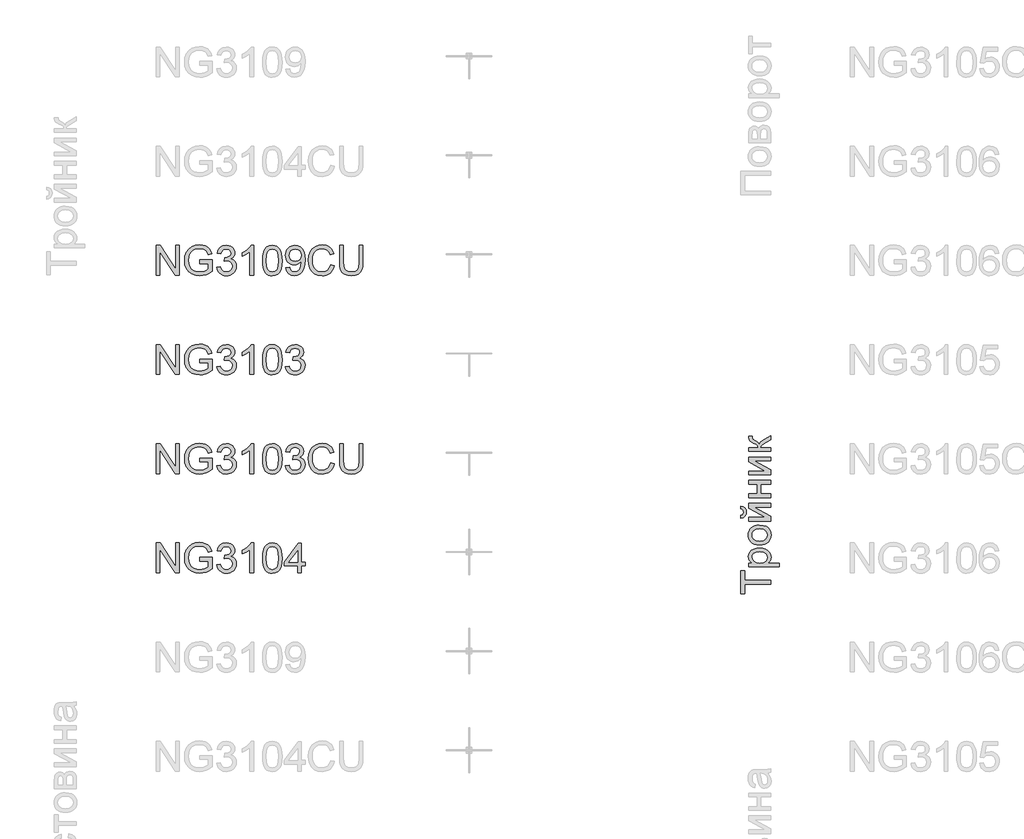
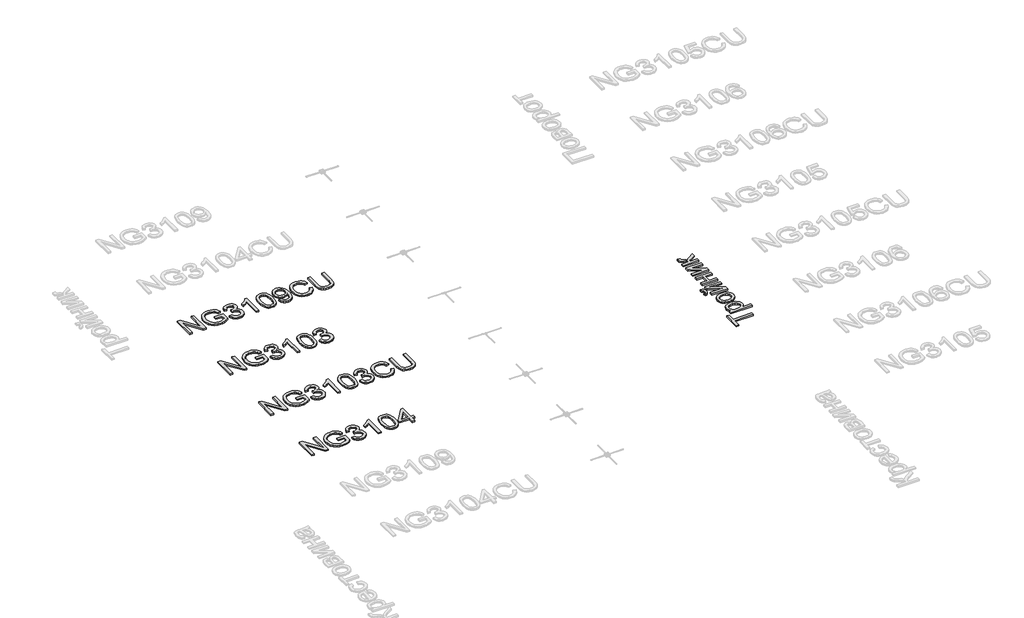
# One storey, part 119 of 124: 5 proxies.
"""IFC4 building model written with IfcOpenShell, lengths in millimetres."""

from ifc_helpers import new_model, si_unit, origin, origin_with_axes, place, context, project, spatial, polyline, outline, extrude, element, save

model = new_model("IFC4")

# Units and contexts
model_context = context("Model", 3, world=origin())
ifc_project = project(units=[si_unit("LENGTHUNIT", "METRE", prefix="MILLI")], contexts=[model_context])

# Site, building, storey
site = spatial("IfcSite", under=ifc_project)
building = spatial("IfcBuilding", under=site)
storey = spatial("IfcBuildingStorey", under=building, Name="Этаж 01", Elevation=0.0)

# Proxies
placement = place(None, origin())
element("IfcBuildingElementProxy", 1, Name="300", ObjectType="300", at=placement, inside=storey, context=model_context, shape_type="SweptSolid", body=[
    extrude(outline(polyline([(55897.1762432, -11633.1081201), (55633.4784291, -11633.1081201), (55633.4784291, -11731.9948004), (55595.8073128, -11731.9948004), (55595.8073128, -11496.5503235), (55633.4784291, -11496.5503235), (55633.4784291, -11595.4370038), (55897.1762432, -11595.4370038), (55897.1762432, -11633.1081201)])), origin_with_axes(), (0.0, 0.0, 1.0), 20.0),
    extrude(outline(polyline([(55981.9362549, -11458.8792072), (55675.8584349, -11458.8792072), (55675.8584349, -11421.2080909), (55712.7937873, -11421.2080909), (55694.5744314, -11408.9208322), (55681.5606059, -11395.1620456), (55673.7523105, -11379.1223906), (55671.1495454, -11359.9925269), (55674.7915772, -11334.5166987), (55685.7176724, -11312.2414439), (55703.2656436, -11294.1048615), (55726.7733031, -11281.0450507), (55754.5299996, -11273.1539819), (55784.8250819, -11270.5236256), (55817.0423476, -11273.4942727), (55845.8567049, -11282.4062141), (55869.8058228, -11296.9743411), (55887.4273704, -11316.9135452), (55898.2706922, -11340.1360962), (55901.8851328, -11364.5542636), (55899.4663087, -11381.8723085), (55892.2098363, -11397.3325494), (55881.2561499, -11410.5671041), (55867.7456836, -11421.2080909), (55981.9362549, -11421.2080909), (55981.9362549, -11458.8792072)]), holes=[polyline([(55788.2831727, -11421.2080909), (55822.0547398, -11417.1337978), (55845.6727639, -11404.9109185), (55859.5787033, -11386.8755037), (55864.2140165, -11365.363604), (55859.4131564, -11343.5022164), (55845.0105763, -11325.0069491), (55820.5280295, -11312.3977937), (55785.4872695, -11308.1947419), (55751.8996433, -11312.2966262), (55727.9505255, -11324.6022789), (55713.6031276, -11342.6101026), (55708.8206617, -11363.8184996), (55713.9066303, -11385.1096701), (55729.164536, -11403.8072725), (55754.1161324, -11416.8578863), (55788.2831727, -11421.2080909)])]), origin_with_axes(), (0.0, 0.0, 1.0), 20.0),
    extrude(outline(polyline([(55786.5173391, -11237.5613989), (55757.8547331, -11235.5242523), (55733.1560557, -11229.4128127), (55712.4213067, -11219.2270799), (55695.6504863, -11204.9670541), (55684.9313246, -11190.6104592), (55677.2747806, -11174.7639423), (55672.6808542, -11157.4275033), (55671.1495454, -11138.6011422), (55673.0142473, -11117.8181087), (55678.6083529, -11099.0262365), (55687.9318622, -11082.2255257), (55700.9847752, -11067.4159761), (55717.3256336, -11055.3287533), (55736.5129789, -11046.6950227), (55758.5468111, -11041.5147844), (55783.4271303, -11039.7880383), (55821.4845227, -11042.8414588), (55850.4552298, -11052.0017205), (55872.1510705, -11067.0021089), (55888.3838636, -11087.5759094), (55898.5098155, -11112.012471), (55901.8851328, -11138.6011422), (55900.0273287, -11159.6876783), (55894.4539165, -11178.6542944), (55885.1648961, -11195.5009905), (55872.1602676, -11210.2277666), (55855.6607601, -11222.1862307), (55835.8871028, -11230.7279908), (55812.8392958, -11235.8530468), (55786.5173391, -11237.5613989)]), holes=[polyline([(55786.4437627, -11199.8902826), (55820.5372266, -11195.5308809), (55844.8266353, -11182.452676), (55859.3671712, -11162.7709892), (55864.2140165, -11138.6011422), (55859.33958, -11114.5416597), (55844.7162707, -11094.8967611), (55820.1049652, -11081.8185562), (55785.2665403, -11077.4591546), (55752.1663578, -11081.8461474), (55728.2080429, -11095.0071257), (55713.667507, -11114.6796154), (55708.8206617, -11138.6011422), (55713.6491129, -11162.7709892), (55728.1344665, -11182.452676), (55752.3686929, -11195.5308809), (55786.4437627, -11199.8902826)])]), origin_with_axes(), (0.0, 0.0, 1.0), 20.0),
    extrude(outline(polyline([(55675.8584349, -10997.4080324), (55675.8584349, -10959.7369161), (55844.6426943, -10959.7369161), (55675.8584349, -10867.1778061), (55675.8584349, -10818.47023), (55897.1762432, -10818.47023), (55897.1762432, -10856.1413463), (55729.4220534, -10856.1413463), (55897.1762432, -10948.1118451), (55897.1762432, -10997.4080324), (55675.8584349, -10997.4080324)])), origin_with_axes(), (0.0, 0.0, 1.0), 20.0),
    extrude(outline(polyline([(55595.8073128, -10874.9769044), (55595.8073128, -10846.7235672), (55619.9311746, -10852.8028172), (55637.709072, -10865.0073023), (55648.6627584, -10882.7851998), (55652.3139872, -10905.5846864), (55648.6903496, -10930.3247506), (55637.8194366, -10949.5097966), (55620.0691304, -10962.6247898), (55595.8073128, -10969.1546952), (55595.8073128, -10940.901358), (55608.2141331, -10936.9282324), (55617.0341039, -10930.3063565), (55622.3040135, -10920.998942), (55624.06065, -10908.9692008), (55622.3591958, -10895.3943552), (55617.2548331, -10885.5719059), (55608.4900446, -10878.95003), (55595.8073128, -10874.9769044)])), origin_with_axes(), (0.0, 0.0, 1.0), 20.0),
    extrude(outline(polyline([(55675.8584349, -10761.9635555), (55675.8584349, -10724.2924392), (55760.6184466, -10724.2924392), (55760.6184466, -10625.4057589), (55675.8584349, -10625.4057589), (55675.8584349, -10587.7346426), (55897.1762432, -10587.7346426), (55897.1762432, -10625.4057589), (55798.2895629, -10625.4057589), (55798.2895629, -10724.2924392), (55897.1762432, -10724.2924392), (55897.1762432, -10761.9635555), (55675.8584349, -10761.9635555)])), origin_with_axes(), (0.0, 0.0, 1.0), 20.0),
    extrude(outline(polyline([(55675.8584349, -10531.2279681), (55675.8584349, -10493.5568518), (55844.6426943, -10493.5568518), (55675.8584349, -10400.9977418), (55675.8584349, -10352.2901657), (55897.1762432, -10352.2901657), (55897.1762432, -10389.961282), (55729.4220534, -10389.961282), (55897.1762432, -10481.9317808), (55897.1762432, -10531.2279681), (55675.8584349, -10531.2279681)])), origin_with_axes(), (0.0, 0.0, 1.0), 20.0),
    extrude(outline(polyline([(55675.8584349, -10295.7834912), (55675.8584349, -10258.1123749), (55770.0362257, -10258.1123749), (55768.3439685, -10242.7900898), (55763.267197, -10232.87567), (55750.0234452, -10224.1016845), (55723.8302471, -10212.2007019), (55689.8011626, -10195.0206127), (55678.7279145, -10179.8638745), (55675.8584349, -10152.3095131), (55675.8584349, -10145.099026), (55713.7502804, -10145.099026), (55713.5295512, -10155.2525691), (55717.5026768, -10173.6466688), (55742.2979233, -10186.596115), (55769.1165207, -10201.7896414), (55782.2499079, -10223.090009), (55787.5520072, -10211.1522382), (55796.9100054, -10199.3248321), (55827.7936989, -10176.0011136), (55897.1762432, -10135.6812469), (55897.1762432, -10178.5027112), (55829.2652269, -10218.0132374), (55800.5336431, -10237.8788652), (55795.3189158, -10247.1678855), (55793.5806734, -10258.1123749), (55897.1762432, -10258.1123749), (55897.1762432, -10295.7834912), (55675.8584349, -10295.7834912)])), origin_with_axes(), (0.0, 0.0, 1.0), 20.0),
])
element("IfcBuildingElementProxy", 2, Name="300", ObjectType="300", at=placement, inside=storey, context=model_context, shape_type="SweptSolid", body=[
    extrude(outline(polyline([(49699.8220677, -8519.5141033), (49699.8220677, -8218.1451728), (49740.1419344, -8218.1451728), (49897.5954283, -8456.9005877), (49897.5954283, -8218.1451728), (49935.2665446, -8218.1451728), (49935.2665446, -8519.5141033), (49894.9466779, -8519.5141033), (49737.493184, -8280.685112), (49737.493184, -8519.5141033), (49699.8220677, -8519.5141033)])), origin_with_axes(), (0.0, 0.0, 1.0), 20.0),
    extrude(outline(polyline([(50142.4576843, -8401.7918648), (50142.4576843, -8364.1207485), (50264.8888123, -8364.1207485), (50264.8888123, -8476.7662154), (50235.1363559, -8497.4595776), (50204.4458005, -8512.3036162), (50172.8907223, -8521.2431486), (50140.5446979, -8524.2229928), (50098.2842537, -8519.4865121), (50060.0889056, -8505.27707), (50028.3590835, -8482.0913073), (50005.4952175, -8450.4258646), (49991.6720515, -8412.4420486), (49987.0643295, -8370.301166), (49991.6536574, -8327.8567808), (50005.4216411, -8288.3738457), (50027.7980634, -8255.2552691), (50058.2127074, -8231.9039594), (50095.2584243, -8218.0532023), (50137.5280656, -8213.4362833), (50168.5589118, -8216.1126248), (50196.4627612, -8224.1416493), (50219.9612236, -8236.9439428), (50237.7759092, -8253.9400909), (50250.9552817, -8275.9486313), (50260.5478047, -8303.7881013), (50225.8197444, -8313.5737624), (50218.0666313, -8293.7173317), (50208.6396552, -8278.7353374), (50196.1684556, -8267.4413602), (50179.282672, -8258.6489805), (50159.1503298, -8252.9927948), (50136.9394544, -8251.1073996), (50110.9393944, -8253.1399476), (50088.7101248, -8259.2375917), (50070.3344191, -8268.6369766), (50055.8950508, -8280.5747474), (50036.5076697, -8309.6006368), (50027.6785018, -8338.037915), (50024.7354458, -8368.7560616), (50028.27631, -8404.780906), (50038.8989026, -8434.4229978), (50056.2813269, -8457.4708048), (50080.1016861, -8473.7127949), (50107.9779443, -8483.3421061), (50137.5280656, -8486.5518765), (50163.6200961, -8484.1330524), (50189.0683331, -8476.87658), (50211.1688439, -8466.8793868), (50227.217696, -8456.2384001), (50227.217696, -8401.7918648), (50142.4576843, -8401.7918648)])), origin_with_axes(), (0.0, 0.0, 1.0), 20.0),
    extrude(outline(polyline([(50311.9777077, -8439.4629811), (50349.648824, -8434.7540916), (50358.0825187, -8458.427298), (50370.4341567, -8474.4117707), (50387.3107432, -8483.51685), (50409.3192836, -8486.5518765), (50435.1445997, -8482.3764158), (50455.0838038, -8469.8500339), (50467.8309149, -8451.1616286), (50472.079952, -8428.5000977), (50467.8677031, -8406.988198), (50455.2309566, -8389.5413944), (50436.1010928, -8377.9807027), (50412.4094924, -8374.1271388), (50385.9955651, -8378.2474171), (50390.1894198, -8340.5763008), (50396.2226846, -8341.0177592), (50418.792245, -8338.3138265), (50438.9705724, -8330.2020285), (50453.2076056, -8316.4800301), (50457.9532834, -8296.9454962), (50454.5135867, -8280.6759149), (50444.1944967, -8267.4781484), (50428.4491473, -8258.7317539), (50408.7306724, -8255.8162891), (50388.9754093, -8258.7593451), (50372.8253897, -8267.588513), (50361.0347717, -8282.3037928), (50354.3577135, -8302.9051845), (50316.6865972, -8298.196295), (50327.7782394, -8264.3695455), (50347.5151084, -8239.1144465), (50374.5176468, -8223.3874912), (50407.4062972, -8218.1451728), (50431.0887007, -8220.7295438), (50452.8397236, -8228.4826569), (50471.1786411, -8240.7147332), (50484.624728, -8256.7359941), (50492.8744817, -8275.1944732), (50495.6243997, -8294.7382042), (50493.0124375, -8312.948363), (50485.176551, -8329.4662646), (50472.2271048, -8343.5377509), (50454.2744634, -8354.4086638), (50477.8556993, -8363.9368075), (50495.3300941, -8380.1604035), (50506.1458247, -8402.196535), (50509.7510683, -8429.1622852), (50507.9484465, -8448.2737549), (50502.5405812, -8465.8769084), (50493.5274723, -8481.9717457), (50480.9091199, -8496.5582668), (50465.536251, -8508.6615844), (50448.2595928, -8517.3068113), (50429.0791453, -8522.4939474), (50407.9949084, -8524.2229928), (50388.9386211, -8522.7468663), (50371.5745909, -8518.3184868), (50355.9028179, -8510.9378542), (50341.9233021, -8500.6049687), (50330.201662, -8487.9268354), (50321.3035162, -8473.5104598), (50315.2288648, -8457.3558417), (50311.9777077, -8439.4629811)])), origin_with_axes(), (0.0, 0.0, 1.0), 20.0),
    extrude(outline(polyline([(50683.9799812, -8519.5141033), (50646.3088649, -8519.5141033), (50646.3088649, -8284.6582375), (50610.6243114, -8310.0788834), (50570.9666323, -8329.0983826), (50570.9666323, -8293.4874054), (50600.5535417, -8277.3925681), (50626.1857197, -8258.2443103), (50646.3916383, -8237.8820419), (50659.6997695, -8218.1451728), (50683.9799812, -8218.1451728), (50683.9799812, -8519.5141033)])), origin_with_axes(), (0.0, 0.0, 1.0), 20.0),
    extrude(outline(polyline([(50773.4488824, -8371.2576592), (50776.2171944, -8323.0191326), (50784.5221305, -8284.5478729), (50798.2809171, -8255.2552691), (50817.4107808, -8234.5527098), (50842.0496775, -8222.2470571), (50872.3355627, -8218.1451728), (50895.5489166, -8220.573194), (50916.3342493, -8227.8572575), (50933.7166736, -8239.7122548), (50946.7213021, -8255.8530773), (50956.5437514, -8276.1417694), (50964.3796379, -8300.4403751), (50969.5115917, -8331.2964775), (50971.222243, -8371.2576592), (50968.4815222, -8419.2202743), (50960.2593596, -8457.5995635), (50946.5833464, -8486.9197585), (50927.4810738, -8507.7050912), (50902.7869949, -8520.0935174), (50872.3355627, -8524.2229928), (50851.5870182, -8522.4295681), (50833.1929184, -8517.0492939), (50817.1532634, -8508.0821703), (50803.4680532, -8495.5281972), (50790.334666, -8472.8344766), (50780.9536751, -8444.5581467), (50775.3250806, -8410.6992076), (50773.4488824, -8371.2576592)]), holes=[polyline([(50811.1199987, -8371.1840828), (50815.5345827, -8430.4406752), (50821.0528126, -8450.7086739), (50828.7783345, -8464.7364742), (50848.4968094, -8481.0980259), (50872.3355627, -8486.5518765), (50896.174316, -8481.0796318), (50915.892791, -8464.6628978), (50923.6183128, -8450.6121048), (50929.1365428, -8430.3487047), (50933.5511267, -8371.1840828), (50929.2836956, -8313.2610627), (50923.9494066, -8293.0597426), (50916.4814021, -8278.6985492), (50896.7997154, -8261.5368541), (50871.8941043, -8255.8162891), (50848.3128684, -8260.8562725), (50829.3669457, -8275.9762225), (50821.3839064, -8291.6112072), (50815.6817355, -8312.6908456), (50811.1199987, -8371.1840828)])]), origin_with_axes(), (0.0, 0.0, 1.0), 20.0),
    extrude(outline(polyline([(51008.8933593, -8444.1718706), (51046.5644756, -8439.4629811), (51053.0024106, -8460.8461221), (51063.4870474, -8475.405052), (51077.7608688, -8483.7651704), (51095.5663574, -8486.5518765), (51111.541633, -8484.7584518), (51126.0637748, -8479.3781776), (51138.1303042, -8470.9996651), (51146.7387429, -8460.2115256), (51159.0627898, -8427.4700281), (51164.5074433, -8383.765647), (51164.2867141, -8376.4080071), (51151.2361003, -8392.3372975), (51134.1571787, -8404.95565), (51114.2823539, -8413.1778126), (51092.8440306, -8415.9185334), (51074.9488708, -8414.2446703), (51058.4930493, -8409.2230811), (51043.4765661, -8400.8537657), (51029.8994213, -8389.1367242), (51018.64913, -8374.6835603), (51010.6132077, -8358.1058779), (51005.7916543, -8339.4036769), (51004.1844698, -8318.5769575), (51005.8698292, -8297.0558608), (51010.9259074, -8277.742056), (51019.3527043, -8260.6355433), (51031.15022, -8245.7363225), (51045.4861215, -8233.6651945), (51061.5280758, -8225.0429602), (51079.2760828, -8219.8696197), (51098.7301426, -8218.1451728), (51126.8271299, -8222.0815102), (51152.4041256, -8233.8905222), (51173.7964637, -8252.9835978), (51189.339478, -8278.7721256), (51198.8032423, -8314.4198909), (51201.9578304, -8363.0906789), (51198.8124393, -8414.6953258), (51189.3762662, -8454.5829311), (51173.7320843, -8484.5561167), (51151.9626673, -8506.4175042), (51125.0061141, -8519.7716207), (51093.8005238, -8524.2229928), (51061.5924551, -8518.9714773), (51035.8958978, -8503.2169309), (51017.9248623, -8477.9526349), (51008.8933593, -8444.1718706)]), holes=[polyline([(51164.2867141, -8317.6940407), (51160.221618, -8292.1630302), (51148.0263299, -8272.5181317), (51129.0988013, -8259.9917498), (51104.8369837, -8255.8162891), (51079.6738552, -8260.3136465), (51059.5139219, -8273.8057187), (51046.27017, -8294.4530957), (51041.8555861, -8320.4163675), (51046.0310467, -8343.6941007), (51058.5574287, -8362.1709739), (51078.2207213, -8374.2283063), (51103.8069141, -8378.2474171), (51127.8755936, -8374.2283063), (51147.2537777, -8362.1709739), (51160.02848, -8343.013519), (51164.2867141, -8317.6940407)])]), origin_with_axes(), (0.0, 0.0, 1.0), 20.0),
    extrude(outline(polyline([(51460.946755, -8412.3868663), (51498.6178713, -8422.0989509), (51491.1636624, -8445.5261362), (51481.235447, -8465.99647), (51468.8332253, -8483.5099522), (51453.9569971, -8498.0665829), (51436.9424548, -8509.5100123), (51418.1252908, -8517.6838903), (51397.5055049, -8522.5882172), (51375.0830973, -8524.2229928), (51331.3879134, -8519.27498), (51296.6874442, -8504.4309415), (51270.0895759, -8480.2059121), (51250.7021948, -8447.1149266), (51238.8655916, -8408.2114056), (51234.9200572, -8366.5487697), (51239.3806264, -8322.6052653), (51252.7623339, -8284.6582375), (51274.3662041, -8253.9124998), (51303.4932611, -8231.5728656), (51338.0373804, -8217.9704289), (51375.8924377, -8213.4362833), (51417.1963887, -8219.3040011), (51435.1651249, -8226.6386484), (51451.3450349, -8236.9071546), (51465.4694043, -8249.8382067), (51477.2715185, -8265.1604918), (51493.9089818, -8302.9787609), (51456.2378655, -8311.9550816), (51443.1780546, -8284.4834936), (51425.3357779, -8265.6387384), (51402.490306, -8254.7402343), (51374.4209097, -8251.1073996), (51342.0656883, -8255.1357074), (51315.4862141, -8267.220631), (51295.3170837, -8286.0929773), (51282.1928935, -8310.4835536), (51274.9916035, -8338.0563091), (51272.5911735, -8366.4751933), (51275.4330619, -8401.27683), (51283.9587271, -8431.3695772), (51298.4900659, -8455.6038036), (51319.3489751, -8472.8298781), (51344.3557537, -8483.1213769), (51371.330701, -8486.5518765), (51402.7754145, -8481.8797752), (51428.9778096, -8467.8634711), (51448.7606639, -8444.6501172), (51460.946755, -8412.3868663)])), origin_with_axes(), (0.0, 0.0, 1.0), 20.0),
    extrude(outline(polyline([(51748.1890168, -8218.1451728), (51785.8601331, -8218.1451728), (51785.8601331, -8392.0062037), (51783.3033533, -8432.7215435), (51775.6330137, -8464.0742866), (51761.30401, -8488.2625278), (51738.7712378, -8507.484362), (51707.9795148, -8520.0383351), (51668.8736587, -8524.2229928), (51630.6231282, -8520.580961), (51600.0429374, -8509.6548658), (51577.1238891, -8491.8217861), (51561.8567863, -8467.4588009), (51553.2759387, -8434.7816827), (51550.4156562, -8392.0062037), (51550.4156562, -8218.1451728), (51588.0867725, -8218.1451728), (51588.0867725, -8390.6818285), (51589.9445766, -8424.5361692), (51595.5179888, -8448.108208), (51605.6163496, -8464.4329715), (51621.0489993, -8476.5454862), (51641.1721444, -8484.0502789), (51665.3419915, -8486.5518765), (51703.6569013, -8481.6038637), (51717.9997006, -8475.4188476), (51729.1327295, -8466.7598252), (51737.4698552, -8454.5829311), (51743.424945, -8437.8443003), (51748.1890168, -8390.6818285), (51748.1890168, -8218.1451728)])), origin_with_axes(), (0.0, 0.0, 1.0), 20.0),
])
element("IfcBuildingElementProxy", 3, Name="300", ObjectType="300", at=placement, inside=storey, context=model_context, shape_type="SweptSolid", body=[
    extrude(outline(polyline([(49699.8220677, -9519.5141033), (49699.8220677, -9218.1451728), (49740.1419344, -9218.1451728), (49897.5954283, -9456.9005877), (49897.5954283, -9218.1451728), (49935.2665446, -9218.1451728), (49935.2665446, -9519.5141033), (49894.9466779, -9519.5141033), (49737.493184, -9280.685112), (49737.493184, -9519.5141033), (49699.8220677, -9519.5141033)])), origin_with_axes(), (0.0, 0.0, 1.0), 20.0),
    extrude(outline(polyline([(50142.4576843, -9401.7918648), (50142.4576843, -9364.1207485), (50264.8888123, -9364.1207485), (50264.8888123, -9476.7662154), (50235.1363559, -9497.4595776), (50204.4458005, -9512.3036162), (50172.8907223, -9521.2431486), (50140.5446979, -9524.2229928), (50098.2842537, -9519.4865121), (50060.0889056, -9505.27707), (50028.3590835, -9482.0913073), (50005.4952175, -9450.4258646), (49991.6720515, -9412.4420486), (49987.0643295, -9370.301166), (49991.6536574, -9327.8567808), (50005.4216411, -9288.3738457), (50027.7980634, -9255.2552691), (50058.2127074, -9231.9039594), (50095.2584243, -9218.0532023), (50137.5280656, -9213.4362833), (50168.5589118, -9216.1126248), (50196.4627612, -9224.1416493), (50219.9612236, -9236.9439428), (50237.7759092, -9253.9400909), (50250.9552817, -9275.9486313), (50260.5478047, -9303.7881013), (50225.8197444, -9313.5737624), (50218.0666313, -9293.7173317), (50208.6396552, -9278.7353374), (50196.1684556, -9267.4413602), (50179.282672, -9258.6489805), (50159.1503298, -9252.9927948), (50136.9394544, -9251.1073996), (50110.9393944, -9253.1399476), (50088.7101248, -9259.2375917), (50070.3344191, -9268.6369766), (50055.8950508, -9280.5747474), (50036.5076697, -9309.6006368), (50027.6785018, -9338.037915), (50024.7354458, -9368.7560616), (50028.27631, -9404.780906), (50038.8989026, -9434.4229978), (50056.2813269, -9457.4708048), (50080.1016861, -9473.7127949), (50107.9779443, -9483.3421061), (50137.5280656, -9486.5518765), (50163.6200961, -9484.1330524), (50189.0683331, -9476.87658), (50211.1688439, -9466.8793868), (50227.217696, -9456.2384001), (50227.217696, -9401.7918648), (50142.4576843, -9401.7918648)])), origin_with_axes(), (0.0, 0.0, 1.0), 20.0),
    extrude(outline(polyline([(50311.9777077, -9439.4629811), (50349.648824, -9434.7540916), (50358.0825187, -9458.427298), (50370.4341567, -9474.4117707), (50387.3107432, -9483.51685), (50409.3192836, -9486.5518765), (50435.1445997, -9482.3764158), (50455.0838038, -9469.8500339), (50467.8309149, -9451.1616286), (50472.079952, -9428.5000977), (50467.8677031, -9406.988198), (50455.2309566, -9389.5413944), (50436.1010928, -9377.9807027), (50412.4094924, -9374.1271388), (50385.9955651, -9378.2474171), (50390.1894198, -9340.5763008), (50396.2226846, -9341.0177592), (50418.792245, -9338.3138265), (50438.9705724, -9330.2020285), (50453.2076056, -9316.4800301), (50457.9532834, -9296.9454962), (50454.5135867, -9280.6759149), (50444.1944967, -9267.4781484), (50428.4491473, -9258.7317539), (50408.7306724, -9255.8162891), (50388.9754093, -9258.7593451), (50372.8253897, -9267.588513), (50361.0347717, -9282.3037928), (50354.3577135, -9302.9051845), (50316.6865972, -9298.196295), (50327.7782394, -9264.3695455), (50347.5151084, -9239.1144465), (50374.5176468, -9223.3874912), (50407.4062972, -9218.1451728), (50431.0887007, -9220.7295438), (50452.8397236, -9228.4826569), (50471.1786411, -9240.7147332), (50484.624728, -9256.7359941), (50492.8744817, -9275.1944732), (50495.6243997, -9294.7382042), (50493.0124375, -9312.948363), (50485.176551, -9329.4662646), (50472.2271048, -9343.5377509), (50454.2744634, -9354.4086638), (50477.8556993, -9363.9368075), (50495.3300941, -9380.1604035), (50506.1458247, -9402.196535), (50509.7510683, -9429.1622852), (50507.9484465, -9448.2737549), (50502.5405812, -9465.8769084), (50493.5274723, -9481.9717457), (50480.9091199, -9496.5582668), (50465.536251, -9508.6615844), (50448.2595928, -9517.3068113), (50429.0791453, -9522.4939474), (50407.9949084, -9524.2229928), (50388.9386211, -9522.7468663), (50371.5745909, -9518.3184868), (50355.9028179, -9510.9378542), (50341.9233021, -9500.6049687), (50330.201662, -9487.9268354), (50321.3035162, -9473.5104598), (50315.2288648, -9457.3558417), (50311.9777077, -9439.4629811)])), origin_with_axes(), (0.0, 0.0, 1.0), 20.0),
    extrude(outline(polyline([(50683.9799812, -9519.5141033), (50646.3088649, -9519.5141033), (50646.3088649, -9284.6582375), (50610.6243114, -9310.0788834), (50570.9666323, -9329.0983826), (50570.9666323, -9293.4874054), (50600.5535417, -9277.3925681), (50626.1857197, -9258.2443103), (50646.3916383, -9237.8820419), (50659.6997695, -9218.1451728), (50683.9799812, -9218.1451728), (50683.9799812, -9519.5141033)])), origin_with_axes(), (0.0, 0.0, 1.0), 20.0),
    extrude(outline(polyline([(50773.4488824, -9371.2576592), (50776.2171944, -9323.0191326), (50784.5221305, -9284.5478729), (50798.2809171, -9255.2552691), (50817.4107808, -9234.5527098), (50842.0496775, -9222.2470571), (50872.3355627, -9218.1451728), (50895.5489166, -9220.573194), (50916.3342493, -9227.8572575), (50933.7166736, -9239.7122548), (50946.7213021, -9255.8530773), (50956.5437514, -9276.1417694), (50964.3796379, -9300.4403751), (50969.5115917, -9331.2964775), (50971.222243, -9371.2576592), (50968.4815222, -9419.2202743), (50960.2593596, -9457.5995635), (50946.5833464, -9486.9197585), (50927.4810738, -9507.7050912), (50902.7869949, -9520.0935174), (50872.3355627, -9524.2229928), (50851.5870182, -9522.4295681), (50833.1929184, -9517.0492939), (50817.1532634, -9508.0821703), (50803.4680532, -9495.5281972), (50790.334666, -9472.8344766), (50780.9536751, -9444.5581467), (50775.3250806, -9410.6992076), (50773.4488824, -9371.2576592)]), holes=[polyline([(50811.1199987, -9371.1840828), (50815.5345827, -9430.4406752), (50821.0528126, -9450.7086739), (50828.7783345, -9464.7364742), (50848.4968094, -9481.0980259), (50872.3355627, -9486.5518765), (50896.174316, -9481.0796318), (50915.892791, -9464.6628978), (50923.6183128, -9450.6121048), (50929.1365428, -9430.3487047), (50933.5511267, -9371.1840828), (50929.2836956, -9313.2610627), (50923.9494066, -9293.0597426), (50916.4814021, -9278.6985492), (50896.7997154, -9261.5368541), (50871.8941043, -9255.8162891), (50848.3128684, -9260.8562725), (50829.3669457, -9275.9762225), (50821.3839064, -9291.6112072), (50815.6817355, -9312.6908456), (50811.1199987, -9371.1840828)])]), origin_with_axes(), (0.0, 0.0, 1.0), 20.0),
    extrude(outline(polyline([(51004.1844698, -9439.4629811), (51041.8555861, -9434.7540916), (51050.2892808, -9458.427298), (51062.6409188, -9474.4117707), (51079.5175054, -9483.51685), (51101.5260457, -9486.5518765), (51127.3513618, -9482.3764158), (51147.2905659, -9469.8500339), (51160.037677, -9451.1616286), (51164.2867141, -9428.5000977), (51160.0744652, -9406.988198), (51147.4377187, -9389.5413944), (51128.307855, -9377.9807027), (51104.6162545, -9374.1271388), (51078.2023272, -9378.2474171), (51082.396182, -9340.5763008), (51088.4294467, -9341.0177592), (51110.9990071, -9338.3138265), (51131.1773345, -9330.2020285), (51145.4143677, -9316.4800301), (51150.1600455, -9296.9454962), (51146.7203488, -9280.6759149), (51136.4012589, -9267.4781484), (51120.6559095, -9258.7317539), (51100.9374345, -9255.8162891), (51081.1821714, -9258.7593451), (51065.0321518, -9267.588513), (51053.2415338, -9282.3037928), (51046.5644756, -9302.9051845), (51008.8933593, -9298.196295), (51019.9850015, -9264.3695455), (51039.7218705, -9239.1144465), (51066.724409, -9223.3874912), (51099.6130593, -9218.1451728), (51123.2954628, -9220.7295438), (51145.0464857, -9228.4826569), (51163.3854032, -9240.7147332), (51176.8314901, -9256.7359941), (51185.0812439, -9275.1944732), (51187.8311618, -9294.7382042), (51185.2191996, -9312.948363), (51177.3833131, -9329.4662646), (51164.4338669, -9343.5377509), (51146.4812255, -9354.4086638), (51170.0624614, -9363.9368075), (51187.5368562, -9380.1604035), (51198.3525868, -9402.196535), (51201.9578304, -9429.1622852), (51200.1552086, -9448.2737549), (51194.7473433, -9465.8769084), (51185.7342344, -9481.9717457), (51173.115882, -9496.5582668), (51157.7430131, -9508.6615844), (51140.4663549, -9517.3068113), (51121.2859074, -9522.4939474), (51100.2016705, -9524.2229928), (51081.1453832, -9522.7468663), (51063.781353, -9518.3184868), (51048.10958, -9510.9378542), (51034.1300642, -9500.6049687), (51022.4084241, -9487.9268354), (51013.5102784, -9473.5104598), (51007.4356269, -9457.3558417), (51004.1844698, -9439.4629811)])), origin_with_axes(), (0.0, 0.0, 1.0), 20.0),
])
element("IfcBuildingElementProxy", 4, Name="300", ObjectType="300", at=placement, inside=storey, context=model_context, shape_type="SweptSolid", body=[
    extrude(outline(polyline([(49699.8220677, -10519.5141033), (49699.8220677, -10218.1451728), (49740.1419344, -10218.1451728), (49897.5954283, -10456.9005877), (49897.5954283, -10218.1451728), (49935.2665446, -10218.1451728), (49935.2665446, -10519.5141033), (49894.9466779, -10519.5141033), (49737.493184, -10280.685112), (49737.493184, -10519.5141033), (49699.8220677, -10519.5141033)])), origin_with_axes(), (0.0, 0.0, 1.0), 20.0),
    extrude(outline(polyline([(50142.4576843, -10401.7918648), (50142.4576843, -10364.1207485), (50264.8888123, -10364.1207485), (50264.8888123, -10476.7662154), (50235.1363559, -10497.4595776), (50204.4458005, -10512.3036162), (50172.8907223, -10521.2431486), (50140.5446979, -10524.2229928), (50098.2842537, -10519.4865121), (50060.0889056, -10505.27707), (50028.3590835, -10482.0913073), (50005.4952175, -10450.4258646), (49991.6720515, -10412.4420486), (49987.0643295, -10370.301166), (49991.6536574, -10327.8567808), (50005.4216411, -10288.3738457), (50027.7980634, -10255.2552691), (50058.2127074, -10231.9039594), (50095.2584243, -10218.0532023), (50137.5280656, -10213.4362833), (50168.5589118, -10216.1126248), (50196.4627612, -10224.1416493), (50219.9612236, -10236.9439428), (50237.7759092, -10253.9400909), (50250.9552817, -10275.9486313), (50260.5478047, -10303.7881013), (50225.8197444, -10313.5737624), (50218.0666313, -10293.7173317), (50208.6396552, -10278.7353374), (50196.1684556, -10267.4413602), (50179.282672, -10258.6489805), (50159.1503298, -10252.9927948), (50136.9394544, -10251.1073996), (50110.9393944, -10253.1399476), (50088.7101248, -10259.2375917), (50070.3344191, -10268.6369766), (50055.8950508, -10280.5747474), (50036.5076697, -10309.6006368), (50027.6785018, -10338.037915), (50024.7354458, -10368.7560616), (50028.27631, -10404.780906), (50038.8989026, -10434.4229978), (50056.2813269, -10457.4708048), (50080.1016861, -10473.7127949), (50107.9779443, -10483.3421061), (50137.5280656, -10486.5518765), (50163.6200961, -10484.1330524), (50189.0683331, -10476.87658), (50211.1688439, -10466.8793868), (50227.217696, -10456.2384001), (50227.217696, -10401.7918648), (50142.4576843, -10401.7918648)])), origin_with_axes(), (0.0, 0.0, 1.0), 20.0),
    extrude(outline(polyline([(50311.9777077, -10439.4629811), (50349.648824, -10434.7540916), (50358.0825187, -10458.427298), (50370.4341567, -10474.4117707), (50387.3107432, -10483.51685), (50409.3192836, -10486.5518765), (50435.1445997, -10482.3764158), (50455.0838038, -10469.8500339), (50467.8309149, -10451.1616286), (50472.079952, -10428.5000977), (50467.8677031, -10406.988198), (50455.2309566, -10389.5413944), (50436.1010928, -10377.9807027), (50412.4094924, -10374.1271388), (50385.9955651, -10378.2474171), (50390.1894198, -10340.5763008), (50396.2226846, -10341.0177592), (50418.792245, -10338.3138265), (50438.9705724, -10330.2020285), (50453.2076056, -10316.4800301), (50457.9532834, -10296.9454962), (50454.5135867, -10280.6759149), (50444.1944967, -10267.4781484), (50428.4491473, -10258.7317539), (50408.7306724, -10255.8162891), (50388.9754093, -10258.7593451), (50372.8253897, -10267.588513), (50361.0347717, -10282.3037928), (50354.3577135, -10302.9051845), (50316.6865972, -10298.196295), (50327.7782394, -10264.3695455), (50347.5151084, -10239.1144465), (50374.5176468, -10223.3874912), (50407.4062972, -10218.1451728), (50431.0887007, -10220.7295438), (50452.8397236, -10228.4826569), (50471.1786411, -10240.7147332), (50484.624728, -10256.7359941), (50492.8744817, -10275.1944732), (50495.6243997, -10294.7382042), (50493.0124375, -10312.948363), (50485.176551, -10329.4662646), (50472.2271048, -10343.5377509), (50454.2744634, -10354.4086638), (50477.8556993, -10363.9368075), (50495.3300941, -10380.1604035), (50506.1458247, -10402.196535), (50509.7510683, -10429.1622852), (50507.9484465, -10448.2737549), (50502.5405812, -10465.8769084), (50493.5274723, -10481.9717457), (50480.9091199, -10496.5582668), (50465.536251, -10508.6615844), (50448.2595928, -10517.3068113), (50429.0791453, -10522.4939474), (50407.9949084, -10524.2229928), (50388.9386211, -10522.7468663), (50371.5745909, -10518.3184868), (50355.9028179, -10510.9378542), (50341.9233021, -10500.6049687), (50330.201662, -10487.9268354), (50321.3035162, -10473.5104598), (50315.2288648, -10457.3558417), (50311.9777077, -10439.4629811)])), origin_with_axes(), (0.0, 0.0, 1.0), 20.0),
    extrude(outline(polyline([(50683.9799812, -10519.5141033), (50646.3088649, -10519.5141033), (50646.3088649, -10284.6582375), (50610.6243114, -10310.0788834), (50570.9666323, -10329.0983826), (50570.9666323, -10293.4874054), (50600.5535417, -10277.3925681), (50626.1857197, -10258.2443103), (50646.3916383, -10237.8820419), (50659.6997695, -10218.1451728), (50683.9799812, -10218.1451728), (50683.9799812, -10519.5141033)])), origin_with_axes(), (0.0, 0.0, 1.0), 20.0),
    extrude(outline(polyline([(50773.4488824, -10371.2576592), (50776.2171944, -10323.0191326), (50784.5221305, -10284.5478729), (50798.2809171, -10255.2552691), (50817.4107808, -10234.5527098), (50842.0496775, -10222.2470571), (50872.3355627, -10218.1451728), (50895.5489166, -10220.573194), (50916.3342493, -10227.8572575), (50933.7166736, -10239.7122548), (50946.7213021, -10255.8530773), (50956.5437514, -10276.1417694), (50964.3796379, -10300.4403751), (50969.5115917, -10331.2964775), (50971.222243, -10371.2576592), (50968.4815222, -10419.2202743), (50960.2593596, -10457.5995635), (50946.5833464, -10486.9197585), (50927.4810738, -10507.7050912), (50902.7869949, -10520.0935174), (50872.3355627, -10524.2229928), (50851.5870182, -10522.4295681), (50833.1929184, -10517.0492939), (50817.1532634, -10508.0821703), (50803.4680532, -10495.5281972), (50790.334666, -10472.8344766), (50780.9536751, -10444.5581467), (50775.3250806, -10410.6992076), (50773.4488824, -10371.2576592)]), holes=[polyline([(50811.1199987, -10371.1840828), (50815.5345827, -10430.4406752), (50821.0528126, -10450.7086739), (50828.7783345, -10464.7364742), (50848.4968094, -10481.0980259), (50872.3355627, -10486.5518765), (50896.174316, -10481.0796318), (50915.892791, -10464.6628978), (50923.6183128, -10450.6121048), (50929.1365428, -10430.3487047), (50933.5511267, -10371.1840828), (50929.2836956, -10313.2610627), (50923.9494066, -10293.0597426), (50916.4814021, -10278.6985492), (50896.7997154, -10261.5368541), (50871.8941043, -10255.8162891), (50848.3128684, -10260.8562725), (50829.3669457, -10275.9762225), (50821.3839064, -10291.6112072), (50815.6817355, -10312.6908456), (50811.1199987, -10371.1840828)])]), origin_with_axes(), (0.0, 0.0, 1.0), 20.0),
    extrude(outline(polyline([(51004.1844698, -10439.4629811), (51041.8555861, -10434.7540916), (51050.2892808, -10458.427298), (51062.6409188, -10474.4117707), (51079.5175054, -10483.51685), (51101.5260457, -10486.5518765), (51127.3513618, -10482.3764158), (51147.2905659, -10469.8500339), (51160.037677, -10451.1616286), (51164.2867141, -10428.5000977), (51160.0744652, -10406.988198), (51147.4377187, -10389.5413944), (51128.307855, -10377.9807027), (51104.6162545, -10374.1271388), (51078.2023272, -10378.2474171), (51082.396182, -10340.5763008), (51088.4294467, -10341.0177592), (51110.9990071, -10338.3138265), (51131.1773345, -10330.2020285), (51145.4143677, -10316.4800301), (51150.1600455, -10296.9454962), (51146.7203488, -10280.6759149), (51136.4012589, -10267.4781484), (51120.6559095, -10258.7317539), (51100.9374345, -10255.8162891), (51081.1821714, -10258.7593451), (51065.0321518, -10267.588513), (51053.2415338, -10282.3037928), (51046.5644756, -10302.9051845), (51008.8933593, -10298.196295), (51019.9850015, -10264.3695455), (51039.7218705, -10239.1144465), (51066.724409, -10223.3874912), (51099.6130593, -10218.1451728), (51123.2954628, -10220.7295438), (51145.0464857, -10228.4826569), (51163.3854032, -10240.7147332), (51176.8314901, -10256.7359941), (51185.0812439, -10275.1944732), (51187.8311618, -10294.7382042), (51185.2191996, -10312.948363), (51177.3833131, -10329.4662646), (51164.4338669, -10343.5377509), (51146.4812255, -10354.4086638), (51170.0624614, -10363.9368075), (51187.5368562, -10380.1604035), (51198.3525868, -10402.196535), (51201.9578304, -10429.1622852), (51200.1552086, -10448.2737549), (51194.7473433, -10465.8769084), (51185.7342344, -10481.9717457), (51173.115882, -10496.5582668), (51157.7430131, -10508.6615844), (51140.4663549, -10517.3068113), (51121.2859074, -10522.4939474), (51100.2016705, -10524.2229928), (51081.1453832, -10522.7468663), (51063.781353, -10518.3184868), (51048.10958, -10510.9378542), (51034.1300642, -10500.6049687), (51022.4084241, -10487.9268354), (51013.5102784, -10473.5104598), (51007.4356269, -10457.3558417), (51004.1844698, -10439.4629811)])), origin_with_axes(), (0.0, 0.0, 1.0), 20.0),
    extrude(outline(polyline([(51460.946755, -10412.3868663), (51498.6178713, -10422.0989509), (51491.1636624, -10445.5261362), (51481.235447, -10465.99647), (51468.8332253, -10483.5099522), (51453.9569971, -10498.0665829), (51436.9424548, -10509.5100123), (51418.1252908, -10517.6838903), (51397.5055049, -10522.5882172), (51375.0830973, -10524.2229928), (51331.3879134, -10519.27498), (51296.6874442, -10504.4309415), (51270.0895759, -10480.2059121), (51250.7021948, -10447.1149266), (51238.8655916, -10408.2114056), (51234.9200572, -10366.5487697), (51239.3806264, -10322.6052653), (51252.7623339, -10284.6582375), (51274.3662041, -10253.9124998), (51303.4932611, -10231.5728656), (51338.0373804, -10217.9704289), (51375.8924377, -10213.4362833), (51417.1963887, -10219.3040011), (51435.1651249, -10226.6386484), (51451.3450349, -10236.9071546), (51465.4694043, -10249.8382067), (51477.2715185, -10265.1604918), (51493.9089818, -10302.9787609), (51456.2378655, -10311.9550816), (51443.1780546, -10284.4834936), (51425.3357779, -10265.6387384), (51402.490306, -10254.7402343), (51374.4209097, -10251.1073996), (51342.0656883, -10255.1357074), (51315.4862141, -10267.220631), (51295.3170837, -10286.0929773), (51282.1928935, -10310.4835536), (51274.9916035, -10338.0563091), (51272.5911735, -10366.4751933), (51275.4330619, -10401.27683), (51283.9587271, -10431.3695772), (51298.4900659, -10455.6038036), (51319.3489751, -10472.8298781), (51344.3557537, -10483.1213769), (51371.330701, -10486.5518765), (51402.7754145, -10481.8797752), (51428.9778096, -10467.8634711), (51448.7606639, -10444.6501172), (51460.946755, -10412.3868663)])), origin_with_axes(), (0.0, 0.0, 1.0), 20.0),
    extrude(outline(polyline([(51748.1890168, -10218.1451728), (51785.8601331, -10218.1451728), (51785.8601331, -10392.0062037), (51783.3033533, -10432.7215435), (51775.6330137, -10464.0742866), (51761.30401, -10488.2625278), (51738.7712378, -10507.484362), (51707.9795148, -10520.0383351), (51668.8736587, -10524.2229928), (51630.6231282, -10520.580961), (51600.0429374, -10509.6548658), (51577.1238891, -10491.8217861), (51561.8567863, -10467.4588009), (51553.2759387, -10434.7816827), (51550.4156562, -10392.0062037), (51550.4156562, -10218.1451728), (51588.0867725, -10218.1451728), (51588.0867725, -10390.6818285), (51589.9445766, -10424.5361692), (51595.5179888, -10448.108208), (51605.6163496, -10464.4329715), (51621.0489993, -10476.5454862), (51641.1721444, -10484.0502789), (51665.3419915, -10486.5518765), (51703.6569013, -10481.6038637), (51717.9997006, -10475.4188476), (51729.1327295, -10466.7598252), (51737.4698552, -10454.5829311), (51743.424945, -10437.8443003), (51748.1890168, -10390.6818285), (51748.1890168, -10218.1451728)])), origin_with_axes(), (0.0, 0.0, 1.0), 20.0),
])
element("IfcBuildingElementProxy", 5, Name="300", ObjectType="300", at=placement, inside=storey, context=model_context, shape_type="SweptSolid", body=[
    extrude(outline(polyline([(49699.8220677, -11519.5141033), (49699.8220677, -11218.1451728), (49740.1419344, -11218.1451728), (49897.5954283, -11456.9005877), (49897.5954283, -11218.1451728), (49935.2665446, -11218.1451728), (49935.2665446, -11519.5141033), (49894.9466779, -11519.5141033), (49737.493184, -11280.685112), (49737.493184, -11519.5141033), (49699.8220677, -11519.5141033)])), origin_with_axes(), (0.0, 0.0, 1.0), 20.0),
    extrude(outline(polyline([(50142.4576843, -11401.7918648), (50142.4576843, -11364.1207485), (50264.8888123, -11364.1207485), (50264.8888123, -11476.7662154), (50235.1363559, -11497.4595776), (50204.4458005, -11512.3036162), (50172.8907223, -11521.2431486), (50140.5446979, -11524.2229928), (50098.2842537, -11519.4865121), (50060.0889056, -11505.27707), (50028.3590835, -11482.0913073), (50005.4952175, -11450.4258646), (49991.6720515, -11412.4420486), (49987.0643295, -11370.301166), (49991.6536574, -11327.8567808), (50005.4216411, -11288.3738457), (50027.7980634, -11255.2552691), (50058.2127074, -11231.9039594), (50095.2584243, -11218.0532023), (50137.5280656, -11213.4362833), (50168.5589118, -11216.1126248), (50196.4627612, -11224.1416493), (50219.9612236, -11236.9439428), (50237.7759092, -11253.9400909), (50250.9552817, -11275.9486313), (50260.5478047, -11303.7881013), (50225.8197444, -11313.5737624), (50218.0666313, -11293.7173317), (50208.6396552, -11278.7353374), (50196.1684556, -11267.4413602), (50179.282672, -11258.6489805), (50159.1503298, -11252.9927948), (50136.9394544, -11251.1073996), (50110.9393944, -11253.1399476), (50088.7101248, -11259.2375917), (50070.3344191, -11268.6369766), (50055.8950508, -11280.5747474), (50036.5076697, -11309.6006368), (50027.6785018, -11338.037915), (50024.7354458, -11368.7560616), (50028.27631, -11404.780906), (50038.8989026, -11434.4229978), (50056.2813269, -11457.4708048), (50080.1016861, -11473.7127949), (50107.9779443, -11483.3421061), (50137.5280656, -11486.5518765), (50163.6200961, -11484.1330524), (50189.0683331, -11476.87658), (50211.1688439, -11466.8793868), (50227.217696, -11456.2384001), (50227.217696, -11401.7918648), (50142.4576843, -11401.7918648)])), origin_with_axes(), (0.0, 0.0, 1.0), 20.0),
    extrude(outline(polyline([(50311.9777077, -11439.4629811), (50349.648824, -11434.7540916), (50358.0825187, -11458.427298), (50370.4341567, -11474.4117707), (50387.3107432, -11483.51685), (50409.3192836, -11486.5518765), (50435.1445997, -11482.3764158), (50455.0838038, -11469.8500339), (50467.8309149, -11451.1616286), (50472.079952, -11428.5000977), (50467.8677031, -11406.988198), (50455.2309566, -11389.5413944), (50436.1010928, -11377.9807027), (50412.4094924, -11374.1271388), (50385.9955651, -11378.2474171), (50390.1894198, -11340.5763008), (50396.2226846, -11341.0177592), (50418.792245, -11338.3138265), (50438.9705724, -11330.2020285), (50453.2076056, -11316.4800301), (50457.9532834, -11296.9454962), (50454.5135867, -11280.6759149), (50444.1944967, -11267.4781484), (50428.4491473, -11258.7317539), (50408.7306724, -11255.8162891), (50388.9754093, -11258.7593451), (50372.8253897, -11267.588513), (50361.0347717, -11282.3037928), (50354.3577135, -11302.9051845), (50316.6865972, -11298.196295), (50327.7782394, -11264.3695455), (50347.5151084, -11239.1144465), (50374.5176468, -11223.3874912), (50407.4062972, -11218.1451728), (50431.0887007, -11220.7295438), (50452.8397236, -11228.4826569), (50471.1786411, -11240.7147332), (50484.624728, -11256.7359941), (50492.8744817, -11275.1944732), (50495.6243997, -11294.7382042), (50493.0124375, -11312.948363), (50485.176551, -11329.4662646), (50472.2271048, -11343.5377509), (50454.2744634, -11354.4086638), (50477.8556993, -11363.9368075), (50495.3300941, -11380.1604035), (50506.1458247, -11402.196535), (50509.7510683, -11429.1622852), (50507.9484465, -11448.2737549), (50502.5405812, -11465.8769084), (50493.5274723, -11481.9717457), (50480.9091199, -11496.5582668), (50465.536251, -11508.6615844), (50448.2595928, -11517.3068113), (50429.0791453, -11522.4939474), (50407.9949084, -11524.2229928), (50388.9386211, -11522.7468663), (50371.5745909, -11518.3184868), (50355.9028179, -11510.9378542), (50341.9233021, -11500.6049687), (50330.201662, -11487.9268354), (50321.3035162, -11473.5104598), (50315.2288648, -11457.3558417), (50311.9777077, -11439.4629811)])), origin_with_axes(), (0.0, 0.0, 1.0), 20.0),
    extrude(outline(polyline([(50683.9799812, -11519.5141033), (50646.3088649, -11519.5141033), (50646.3088649, -11284.6582375), (50610.6243114, -11310.0788834), (50570.9666323, -11329.0983826), (50570.9666323, -11293.4874054), (50600.5535417, -11277.3925681), (50626.1857197, -11258.2443103), (50646.3916383, -11237.8820419), (50659.6997695, -11218.1451728), (50683.9799812, -11218.1451728), (50683.9799812, -11519.5141033)])), origin_with_axes(), (0.0, 0.0, 1.0), 20.0),
    extrude(outline(polyline([(50773.4488824, -11371.2576592), (50776.2171944, -11323.0191326), (50784.5221305, -11284.5478729), (50798.2809171, -11255.2552691), (50817.4107808, -11234.5527098), (50842.0496775, -11222.2470571), (50872.3355627, -11218.1451728), (50895.5489166, -11220.573194), (50916.3342493, -11227.8572575), (50933.7166736, -11239.7122548), (50946.7213021, -11255.8530773), (50956.5437514, -11276.1417694), (50964.3796379, -11300.4403751), (50969.5115917, -11331.2964775), (50971.222243, -11371.2576592), (50968.4815222, -11419.2202743), (50960.2593596, -11457.5995635), (50946.5833464, -11486.9197585), (50927.4810738, -11507.7050912), (50902.7869949, -11520.0935174), (50872.3355627, -11524.2229928), (50851.5870182, -11522.4295681), (50833.1929184, -11517.0492939), (50817.1532634, -11508.0821703), (50803.4680532, -11495.5281972), (50790.334666, -11472.8344766), (50780.9536751, -11444.5581467), (50775.3250806, -11410.6992076), (50773.4488824, -11371.2576592)]), holes=[polyline([(50811.1199987, -11371.1840828), (50815.5345827, -11430.4406752), (50821.0528126, -11450.7086739), (50828.7783345, -11464.7364742), (50848.4968094, -11481.0980259), (50872.3355627, -11486.5518765), (50896.174316, -11481.0796318), (50915.892791, -11464.6628978), (50923.6183128, -11450.6121048), (50929.1365428, -11430.3487047), (50933.5511267, -11371.1840828), (50929.2836956, -11313.2610627), (50923.9494066, -11293.0597426), (50916.4814021, -11278.6985492), (50896.7997154, -11261.5368541), (50871.8941043, -11255.8162891), (50848.3128684, -11260.8562725), (50829.3669457, -11275.9762225), (50821.3839064, -11291.6112072), (50815.6817355, -11312.6908456), (50811.1199987, -11371.1840828)])]), origin_with_axes(), (0.0, 0.0, 1.0), 20.0),
    extrude(outline(polyline([(51126.6155978, -11519.5141033), (51126.6155978, -11448.8807602), (50990.0578012, -11448.8807602), (50990.0578012, -11411.2096439), (51136.0333769, -11222.8540624), (51164.2867141, -11222.8540624), (51164.2867141, -11411.2096439), (51201.9578304, -11411.2096439), (51201.9578304, -11448.8807602), (51164.2867141, -11448.8807602), (51164.2867141, -11519.5141033), (51126.6155978, -11519.5141033)]), holes=[polyline([(51126.6155978, -11411.2096439), (51126.6155978, -11294.8117806), (51036.4109326, -11411.2096439), (51126.6155978, -11411.2096439)])]), origin_with_axes(), (0.0, 0.0, 1.0), 20.0),
])

save(model, "model.ifc")
